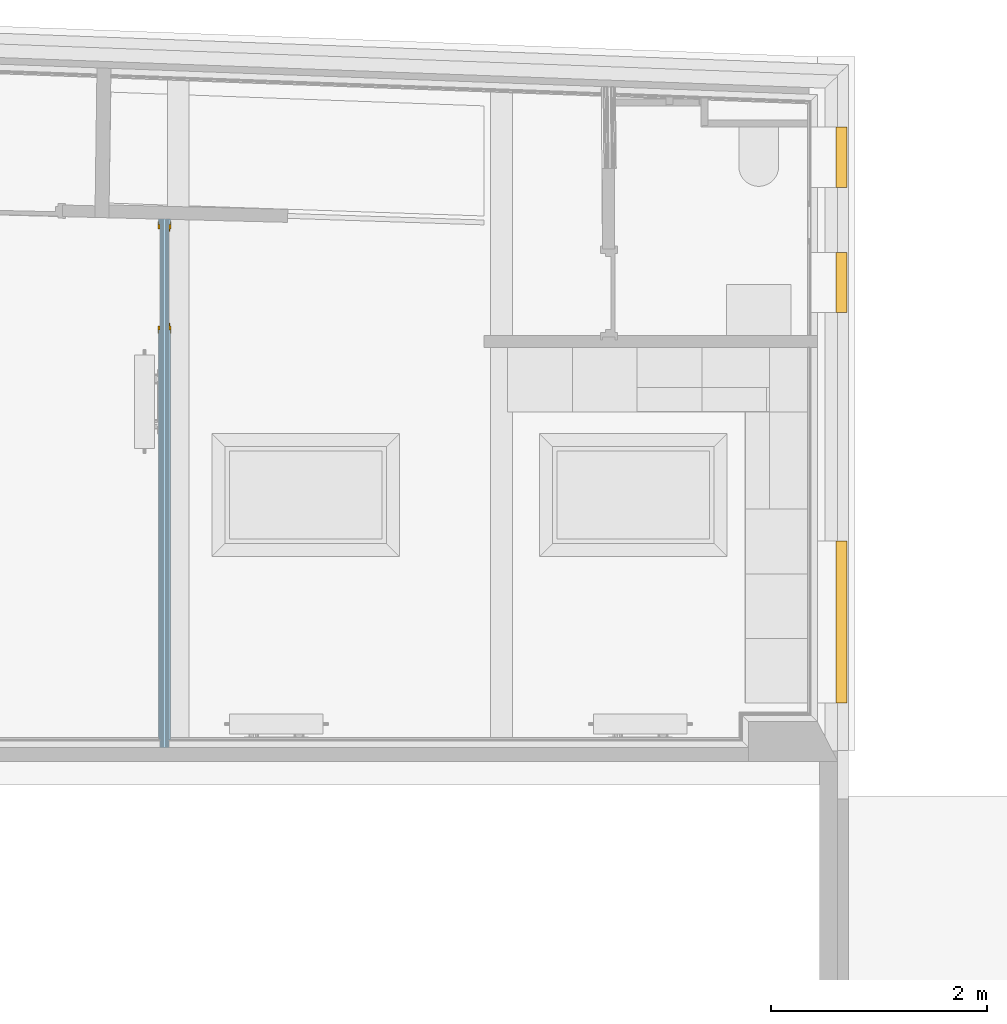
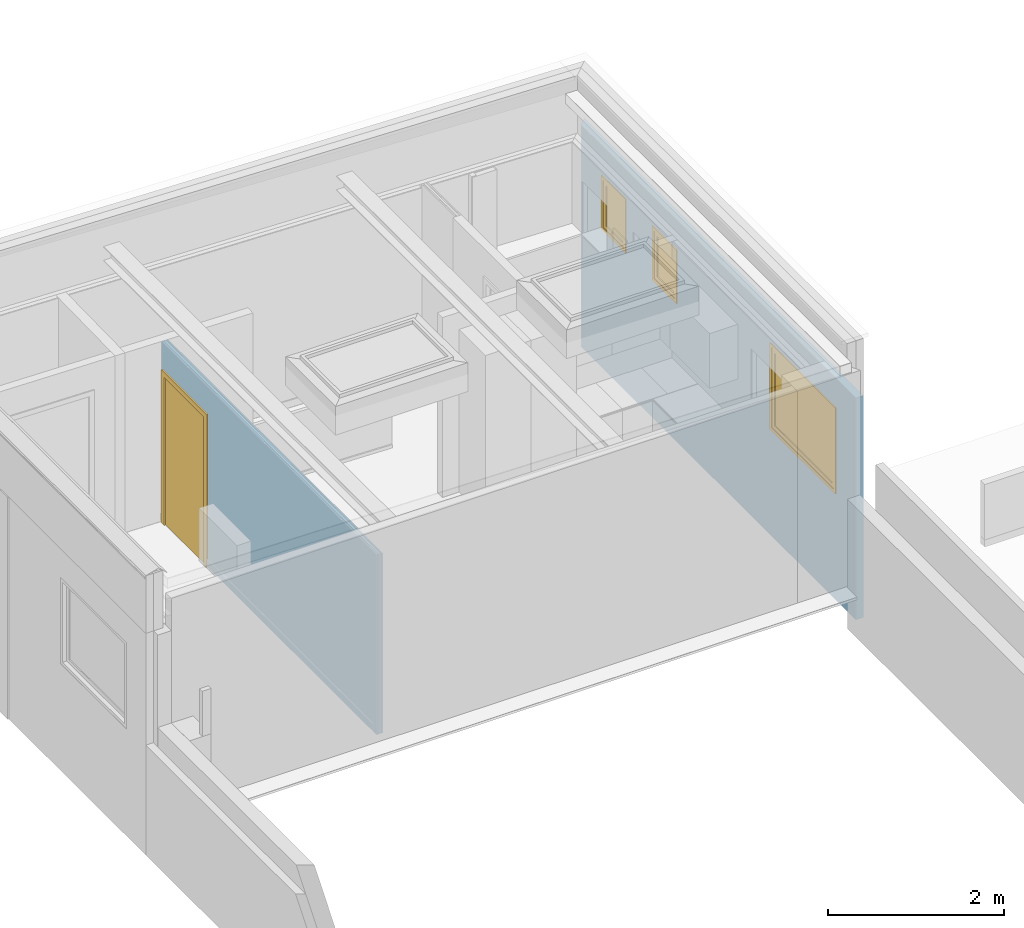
# One storey, part 11 of 23: 3 windows, 1 door, 4 openings, 1 element without a shape of its own, plus 8 elements that do not belong to this part.
"""IFC2X3 building model written with IfcOpenShell, lengths in metres."""

from ifc_helpers import new_model, entity, si_unit, converted_unit, derived_unit, money_unit, direction, frame, frame_2d, origin_with_axes, place, context, subcontext, project, spatial, polyline, rectangle, outline, extrude, faceted_brep, material, layer, layer_set, layer_usage, type_object, element, fill, aggregate, save


model = new_model("IFC2X3")

# Units and contexts
model_context = context("Model", 3, precision=1e-05, world=origin_with_axes(), true_north=direction((0.0, 1.0)))
body_context = subcontext(model_context, "Body", "Model", "MODEL_VIEW", scale=1.0)
ifc_project = project(units=[si_unit("LENGTHUNIT", "METRE"), si_unit("AREAUNIT", "SQUARE_METRE"), si_unit("VOLUMEUNIT", "CUBIC_METRE"), si_unit("ABSORBEDDOSEUNIT", "GRAY"), si_unit("AMOUNTOFSUBSTANCEUNIT", "MOLE"), si_unit("DOSEEQUIVALENTUNIT", "SIEVERT"), si_unit("ELECTRICCAPACITANCEUNIT", "FARAD"), si_unit("ELECTRICCHARGEUNIT", "COULOMB"), si_unit("ELECTRICCONDUCTANCEUNIT", "SIEMENS"), si_unit("ELECTRICCURRENTUNIT", "AMPERE"), si_unit("ELECTRICRESISTANCEUNIT", "OHM"), si_unit("ELECTRICVOLTAGEUNIT", "VOLT"), si_unit("ENERGYUNIT", "JOULE"), si_unit("FORCEUNIT", "NEWTON"), si_unit("FREQUENCYUNIT", "HERTZ"), si_unit("ILLUMINANCEUNIT", "LUX"), si_unit("INDUCTANCEUNIT", "HENRY"), si_unit("LUMINOUSFLUXUNIT", "LUMEN"), si_unit("LUMINOUSINTENSITYUNIT", "CANDELA"), si_unit("MAGNETICFLUXDENSITYUNIT", "TESLA"), si_unit("MAGNETICFLUXUNIT", "WEBER"), si_unit("MASSUNIT", "GRAM"), converted_unit("PLANEANGLEUNIT", "degree", entity("IfcReal", 0.0174532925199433), si_unit("PLANEANGLEUNIT", "RADIAN"), dimensions=[0, 0, 0, 0, 0, 0, 0]), si_unit("POWERUNIT", "WATT"), si_unit("PRESSUREUNIT", "PASCAL"), si_unit("RADIOACTIVITYUNIT", "BECQUEREL"), si_unit("SOLIDANGLEUNIT", "STERADIAN"), si_unit("THERMODYNAMICTEMPERATUREUNIT", "KELVIN"), si_unit("TIMEUNIT", "SECOND"), derived_unit("ACCELERATIONUNIT", [(si_unit("LENGTHUNIT", "METRE"), 1), (si_unit("TIMEUNIT", "SECOND"), -2)]), derived_unit("ANGULARVELOCITYUNIT", [(converted_unit("PLANEANGLEUNIT", "degree", entity("IfcReal", 0.0174532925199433), si_unit("PLANEANGLEUNIT", "RADIAN"), dimensions=[0, 0, 0, 0, 0, 0, 0]), 1), (si_unit("TIMEUNIT", "SECOND"), -1)]), derived_unit("CURVATUREUNIT", [(converted_unit("PLANEANGLEUNIT", "degree", entity("IfcReal", 0.0174532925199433), si_unit("PLANEANGLEUNIT", "RADIAN"), dimensions=[0, 0, 0, 0, 0, 0, 0]), 1), (si_unit("LENGTHUNIT", "METRE"), -1)]), derived_unit("DYNAMICVISCOSITYUNIT", [(si_unit("PRESSUREUNIT", "PASCAL"), 1), (si_unit("TIMEUNIT", "SECOND"), 1)]), derived_unit("HEATFLUXDENSITYUNIT", [(si_unit("POWERUNIT", "WATT"), 1), (si_unit("LENGTHUNIT", "METRE"), -2)]), derived_unit("HEATINGVALUEUNIT", [(si_unit("ENERGYUNIT", "JOULE"), 1), (si_unit("MASSUNIT", "GRAM"), -1)]), derived_unit("INTEGERCOUNTRATEUNIT", [(si_unit("TIMEUNIT", "SECOND"), -1)]), derived_unit("IONCONCENTRATIONUNIT", [(si_unit("MASSUNIT", "GRAM"), 1), (si_unit("VOLUMEUNIT", "CUBIC_METRE"), -1)]), derived_unit("ISOTHERMALMOISTURECAPACITYUNIT", [(si_unit("VOLUMEUNIT", "CUBIC_METRE"), 1), (si_unit("MASSUNIT", "GRAM"), -1)]), derived_unit("KINEMATICVISCOSITYUNIT", [(si_unit("AREAUNIT", "SQUARE_METRE"), 1), (si_unit("TIMEUNIT", "SECOND"), -1)]), derived_unit("LINEARFORCEUNIT", [(si_unit("FORCEUNIT", "NEWTON"), 1), (si_unit("LENGTHUNIT", "METRE"), -1)]), derived_unit("LINEARMOMENTUNIT", [(si_unit("FORCEUNIT", "NEWTON"), 1), (si_unit("LENGTHUNIT", "METRE"), -1)]), derived_unit("LINEARSTIFFNESSUNIT", [(si_unit("FORCEUNIT", "NEWTON"), 1), (si_unit("LENGTHUNIT", "METRE"), -1)]), derived_unit("LINEARVELOCITYUNIT", [(si_unit("LENGTHUNIT", "METRE"), 1), (si_unit("TIMEUNIT", "SECOND"), -1)]), derived_unit("LUMINOUSINTENSITYDISTRIBUTIONUNIT", [(si_unit("LUMINOUSINTENSITYUNIT", "CANDELA"), 1), (si_unit("LUMINOUSFLUXUNIT", "LUMEN"), -1)]), derived_unit("MASSDENSITYUNIT", [(si_unit("MASSUNIT", "GRAM"), 1), (si_unit("VOLUMEUNIT", "CUBIC_METRE"), -1)]), derived_unit("MASSFLOWRATEUNIT", [(si_unit("MASSUNIT", "GRAM"), 1), (si_unit("TIMEUNIT", "SECOND"), -1)]), derived_unit("MASSPERLENGTHUNIT", [(si_unit("MASSUNIT", "GRAM"), 1), (si_unit("LENGTHUNIT", "METRE"), -1)]), derived_unit("MODULUSOFELASTICITYUNIT", [(si_unit("FORCEUNIT", "NEWTON"), 1), (si_unit("AREAUNIT", "SQUARE_METRE"), -1)]), derived_unit("MODULUSOFLINEARSUBGRADEREACTIONUNIT", [(si_unit("FORCEUNIT", "NEWTON"), 1), (si_unit("LENGTHUNIT", "METRE"), -2)]), derived_unit("MODULUSOFROTATIONALSUBGRADEREACTIONUNIT", [(si_unit("FORCEUNIT", "NEWTON"), 1), (si_unit("LENGTHUNIT", "METRE"), 1)]), derived_unit("MODULUSOFSUBGRADEREACTIONUNIT", [(si_unit("FORCEUNIT", "NEWTON"), 1), (si_unit("VOLUMEUNIT", "CUBIC_METRE"), -1)]), derived_unit("MOISTUREDIFFUSIVITYUNIT", [(si_unit("VOLUMEUNIT", "CUBIC_METRE"), 1), (si_unit("TIMEUNIT", "SECOND"), -1)]), derived_unit("MOLECULARWEIGHTUNIT", [(si_unit("MASSUNIT", "GRAM"), 1), (si_unit("AMOUNTOFSUBSTANCEUNIT", "MOLE"), -1)]), derived_unit("PLANARFORCEUNIT", [(si_unit("FORCEUNIT", "NEWTON"), 1), (si_unit("LENGTHUNIT", "METRE"), -2)]), derived_unit("ROTATIONALFREQUENCYUNIT", [(si_unit("TIMEUNIT", "SECOND"), -1)]), derived_unit("ROTATIONALMASSUNIT", [(si_unit("MASSUNIT", "GRAM"), 1), (si_unit("LENGTHUNIT", "METRE"), 2)]), derived_unit("ROTATIONALSTIFFNESSUNIT", [(si_unit("FORCEUNIT", "NEWTON"), 1), (si_unit("LENGTHUNIT", "METRE"), 1), (converted_unit("PLANEANGLEUNIT", "degree", entity("IfcReal", 0.0174532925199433), si_unit("PLANEANGLEUNIT", "RADIAN"), dimensions=[0, 0, 0, 0, 0, 0, 0]), -1)]), derived_unit("SECTIONAREAINTEGRALUNIT", [(si_unit("LENGTHUNIT", "METRE"), 5)]), derived_unit("SECTIONMODULUSUNIT", [(si_unit("LENGTHUNIT", "METRE"), 3)]), derived_unit("SHEARMODULUSUNIT", [(si_unit("FORCEUNIT", "NEWTON"), 1), (si_unit("AREAUNIT", "SQUARE_METRE"), -1)]), derived_unit("SOUNDPOWERUNIT", [(si_unit("ENERGYUNIT", "JOULE"), 1), (si_unit("TIMEUNIT", "SECOND"), -1)]), derived_unit("SPECIFICHEATCAPACITYUNIT", [(si_unit("FORCEUNIT", "NEWTON"), 1), (si_unit("MASSUNIT", "GRAM"), -1), (si_unit("THERMODYNAMICTEMPERATUREUNIT", "KELVIN"), -1)]), derived_unit("TEMPERATUREGRADIENTUNIT", [(si_unit("THERMODYNAMICTEMPERATUREUNIT", "KELVIN"), 1), (si_unit("LENGTHUNIT", "METRE"), -1)]), derived_unit("THERMALADMITTANCEUNIT", [(si_unit("POWERUNIT", "WATT"), 1), (si_unit("AREAUNIT", "SQUARE_METRE"), -1), (si_unit("THERMODYNAMICTEMPERATUREUNIT", "KELVIN"), -1)]), derived_unit("THERMALCONDUCTANCEUNIT", [(si_unit("POWERUNIT", "WATT"), 1), (si_unit("LENGTHUNIT", "METRE"), -1), (si_unit("THERMODYNAMICTEMPERATUREUNIT", "KELVIN"), -1)]), derived_unit("THERMALEXPANSIONCOEFFICIENTUNIT", [(si_unit("THERMODYNAMICTEMPERATUREUNIT", "KELVIN"), -1)]), derived_unit("THERMALRESISTANCEUNIT", [(si_unit("AREAUNIT", "SQUARE_METRE"), 1), (si_unit("POWERUNIT", "WATT"), -1)]), derived_unit("THERMALTRANSMITTANCEUNIT", [(si_unit("POWERUNIT", "WATT"), 1), (si_unit("AREAUNIT", "SQUARE_METRE"), -1), (si_unit("THERMODYNAMICTEMPERATUREUNIT", "KELVIN"), -1)]), derived_unit("TORQUEUNIT", [(si_unit("FORCEUNIT", "NEWTON"), 1), (si_unit("LENGTHUNIT", "METRE"), 1)]), derived_unit("VAPORPERMEABILITYUNIT", [(si_unit("MASSUNIT", "GRAM"), 1), (si_unit("TIMEUNIT", "SECOND"), -1)]), derived_unit("VOLUMETRICFLOWRATEUNIT", [(si_unit("VOLUMEUNIT", "CUBIC_METRE"), 1), (si_unit("TIMEUNIT", "SECOND"), -1)]), derived_unit("WARPINGCONSTANTUNIT", [(si_unit("LENGTHUNIT", "METRE"), 6)]), derived_unit("WARPINGMOMENTUNIT", [(si_unit("FORCEUNIT", "NEWTON"), 1), (si_unit("LENGTHUNIT", "METRE"), 2)]), money_unit("GBP")], contexts=[model_context])

# Site, building, storey
site_placement = place(None, origin_with_axes())
site = spatial("IfcSite", under=ifc_project, at=site_placement, Name="Site", CompositionType="ELEMENT")
building_placement = place(site_placement, origin_with_axes())
building = spatial("IfcBuilding", under=site, at=building_placement, Name="Building01", CompositionType="ELEMENT")
storey_placement = place(building_placement, frame((0.0, 0.0, 2.6), z_axis=(0.0, 0.0, 1.0), x_axis=(1.0, 0.0, 0.0)))
storey = spatial("IfcBuildingStorey", under=building, at=storey_placement, Name="MF", CompositionType="ELEMENT", Elevation=2.6)

# Wall, openings
ifc_material_1 = material(Name="A_BSUK_WallsExternal_Brick")
ifc_layer = layer(ifc_material_1, 0.1, ventilated=False)
ifc_layer_set = layer_set([ifc_layer])
ifc_layer_usage = layer_usage(ifc_layer_set, "AXIS2", "POSITIVE", 0.0)
wall_type_1 = type_object("IfcWallType", Name="A-Walls-ExternalBrick", PredefinedType="NOTDEFINED")
wall_1_placement = place(storey_placement, frame((9.343038, 21.166066, 0.0), z_axis=(0.0, 0.0, 1.0), x_axis=(0.0, -1.0, 0.0)))
wall_1 = element("IfcWallStandardCase", 1, at=wall_1_placement, inside=storey, type_object=wall_type_1, material=ifc_layer_usage, Name="A-Walls-ExternalBrick", ObjectType="A-Walls-ExternalBrick", context=body_context, shape_type="SweptSolid", body=[
    extrude(outline(polyline([(6.265024, 0.1), (-0.096359, 0.1), (0.0, 0.0), (6.265024, 0.0), (6.265024, 0.1)])), origin_with_axes(), (0.0, 0.0, 1.0), 3.085),
])
opening_1_placement = place(wall_1_placement, frame((4.323276, 0.0, 1.485), z_axis=(0.0, 0.0, 1.0), x_axis=(1.0, 0.0, 0.0)))
opening_1 = element("IfcOpeningElement", 2, at=opening_1_placement, cuts=wall_1, Name="Opening", ObjectType="Opening", context=body_context, shape_type="SweptSolid", body=[
    extrude(rectangle(XDim=1.2, YDim=1.5, at=frame_2d((-0.75, 0.6), x_axis=(0.0, -1.0))), frame((0.0, 0.0, 0.0), z_axis=(0.0, 1.0, 0.0), x_axis=(-1.0, 0.0, 0.0)), (0.0, 0.0, 1.0), 0.1),
])
opening_2_placement = place(wall_1_placement, frame((1.643772, 0.0, 1.935), z_axis=(0.0, 0.0, 1.0), x_axis=(1.0, 0.0, 0.0)))
opening_2 = element("IfcOpeningElement", 3, at=opening_2_placement, cuts=wall_1, Name="Opening", ObjectType="Opening", context=body_context, shape_type="SweptSolid", body=[
    extrude(rectangle(XDim=0.75, YDim=0.56, at=frame_2d((-0.28, 0.375), x_axis=(0.0, -1.0))), frame((0.0, 0.0, 0.0), z_axis=(0.0, 1.0, 0.0), x_axis=(-1.0, 0.0, 0.0)), (0.0, 0.0, 1.0), 0.1),
])
opening_3_placement = place(wall_1_placement, frame((0.482163, 0.0, 1.935), z_axis=(0.0, 0.0, 1.0), x_axis=(1.0, 0.0, 0.0)))
opening_3 = element("IfcOpeningElement", 4, at=opening_3_placement, cuts=wall_1, Name="Opening", ObjectType="Opening", context=body_context, shape_type="SweptSolid", body=[
    extrude(rectangle(XDim=0.75, YDim=0.56, at=frame_2d((-0.28, 0.375), x_axis=(0.0, -1.0))), frame((0.0, 0.0, 0.0), z_axis=(0.0, 1.0, 0.0), x_axis=(-1.0, 0.0, 0.0)), (0.0, 0.0, 1.0), 0.1),
])

# Space
space_placement = place(storey_placement, frame((0.352897, 21.240404, 0.585), z_axis=(0.0, 0.0, 1.0), x_axis=(-1.921e-05, -1.0, 0.0)))
space = spatial("IfcSpace", under=storey, at=space_placement, Name="01", CompositionType="ELEMENT", InteriorOrExteriorSpace="NOTDEFINED")

# Window
ifc_material_2 = material(Name="A_BSUK_Windows")
window_style = type_object("IfcWindowStyle", Name="A-Awning", ConstructionType="NOTDEFINED", OperationType="USERDEFINED", ParameterTakesPrecedence=False, Sizeable=False)
window_1_placement = place(opening_1_placement, frame((1.5, -0.038773, 0.0), z_axis=(0.0, 0.0, 1.0), x_axis=(1.0, 0.0, 0.0)))
window_1 = element("IfcWindow", 5, at=window_1_placement, inside=space, type_object=window_style, material=ifc_material_2, Name="0.21", ObjectType="A-Awning", OverallHeight=1.2, OverallWidth=1.5, context=body_context, shape_type="Brep", body=[
    faceted_brep([(-1.458, 0.0254, 0.042), (-0.042, 0.0254, 0.042), (-0.042, 0.1254, 0.042), (-1.458, 0.1254, 0.042), (-1.458, 0.0254, 1.158), (-1.458, 0.1254, 1.158), (-0.042, 0.0254, 1.158), (-0.042, 0.1254, 1.158), (0.0, 0.0254, 0.0), (0.0, 0.0254, 1.2), (-1.5, 0.0254, 1.2), (-1.5, 0.0254, 0.0), (0.0, 0.1254, 1.2), (-1.5, 0.1254, 1.2), (-1.5, 0.1254, 0.0), (0.0, 0.1254, 0.0)], [[[0, 1, 2, 3]], [[4, 0, 3, 5]], [[6, 4, 5, 7]], [[8, 9, 10, 11], [4, 6, 1, 0]], [[1, 6, 7, 2]], [[12, 13, 10, 9]], [[14, 15, 8, 11]], [[13, 14, 11, 10]], [[13, 12, 15, 14], [2, 7, 5, 3]], [[15, 12, 9, 8]]]),
    faceted_brep([(-1.4072, 0.0354, 0.0928), (-0.0928, 0.0354, 0.0928), (-0.0928, 0.0704, 0.0928), (-1.4072, 0.0704, 0.0928), (-1.4072, 0.0354, 1.1072), (-1.4072, 0.0704, 1.1072), (-0.0928, 0.0354, 1.1072), (-0.0928, 0.0704, 1.1072), (-1.458, 0.0704, 1.158), (-0.042, 0.0704, 1.158), (-0.042, 0.0704, 0.042), (-1.458, 0.0704, 0.042), (-1.458, 0.0354, 1.158), (-0.042, 0.0354, 1.158), (-0.042, 0.0354, 0.042), (-1.458, 0.0354, 0.042)], [[[0, 1, 2, 3]], [[4, 0, 3, 5]], [[6, 4, 5, 7]], [[8, 9, 10, 11], [2, 7, 5, 3]], [[9, 8, 12, 13]], [[10, 9, 13, 14]], [[11, 10, 14, 15]], [[8, 11, 15, 12]], [[14, 13, 12, 15], [4, 6, 1, 0]], [[1, 6, 7, 2]]]),
    faceted_brep([(-0.0928, 0.049725, 0.0928), (-0.0928, 0.056075, 0.0928), (-0.0928, 0.056075, 1.1072), (-0.0928, 0.049725, 1.1072), (-1.4072, 0.049725, 1.1072), (-1.4072, 0.056075, 1.1072), (-1.4072, 0.056075, 0.0928), (-1.4072, 0.049725, 0.0928)], [[[0, 1, 2, 3]], [[4, 5, 6, 7]], [[3, 2, 5, 4]], [[3, 4, 7, 0]], [[7, 6, 1, 0]], [[1, 6, 5, 2]]]),
])

fill(opening_1, window_1)

window_2_placement = place(opening_2_placement, frame((0.56, -0.038773, 0.0), z_axis=(0.0, 0.0, 1.0), x_axis=(1.0, 0.0, 0.0)))
window_2 = element("IfcWindow", 6, at=window_2_placement, inside=space, type_object=window_style, material=ifc_material_2, Name="0.22", ObjectType="A-Awning", OverallHeight=0.750000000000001, OverallWidth=0.56, context=body_context, shape_type="Brep", body=[
    faceted_brep([(-0.518, 0.0254, 0.042), (-0.042, 0.0254, 0.042), (-0.042, 0.1254, 0.042), (-0.518, 0.1254, 0.042), (-0.518, 0.0254, 0.708), (-0.518, 0.1254, 0.708), (-0.042, 0.0254, 0.708), (-0.042, 0.1254, 0.708), (0.0, 0.0254, 0.0), (0.0, 0.0254, 0.75), (-0.56, 0.0254, 0.75), (-0.56, 0.0254, 0.0), (0.0, 0.1254, 0.75), (-0.56, 0.1254, 0.75), (-0.56, 0.1254, 0.0), (0.0, 0.1254, 0.0)], [[[0, 1, 2, 3]], [[4, 0, 3, 5]], [[6, 4, 5, 7]], [[8, 9, 10, 11], [4, 6, 1, 0]], [[1, 6, 7, 2]], [[12, 13, 10, 9]], [[14, 15, 8, 11]], [[13, 14, 11, 10]], [[13, 12, 15, 14], [2, 7, 5, 3]], [[15, 12, 9, 8]]]),
    faceted_brep([(-0.4672, 0.0354, 0.0928), (-0.0928, 0.0354, 0.0928), (-0.0928, 0.0704, 0.0928), (-0.4672, 0.0704, 0.0928), (-0.4672, 0.0354, 0.6572), (-0.4672, 0.0704, 0.6572), (-0.0928, 0.0354, 0.6572), (-0.0928, 0.0704, 0.6572), (-0.518, 0.0704, 0.708), (-0.042, 0.0704, 0.708), (-0.042, 0.0704, 0.042), (-0.518, 0.0704, 0.042), (-0.518, 0.0354, 0.708), (-0.042, 0.0354, 0.708), (-0.042, 0.0354, 0.042), (-0.518, 0.0354, 0.042)], [[[0, 1, 2, 3]], [[4, 0, 3, 5]], [[6, 4, 5, 7]], [[8, 9, 10, 11], [2, 7, 5, 3]], [[9, 8, 12, 13]], [[10, 9, 13, 14]], [[11, 10, 14, 15]], [[8, 11, 15, 12]], [[14, 13, 12, 15], [4, 6, 1, 0]], [[1, 6, 7, 2]]]),
    faceted_brep([(-0.0928, 0.049725, 0.0928), (-0.0928, 0.056075, 0.0928), (-0.0928, 0.056075, 0.6572), (-0.0928, 0.049725, 0.6572), (-0.4672, 0.049725, 0.6572), (-0.4672, 0.056075, 0.6572), (-0.4672, 0.056075, 0.0928), (-0.4672, 0.049725, 0.0928)], [[[0, 1, 2, 3]], [[4, 5, 6, 7]], [[3, 2, 5, 4]], [[3, 4, 7, 0]], [[7, 6, 1, 0]], [[1, 6, 5, 2]]]),
])

fill(opening_2, window_2)

window_3_placement = place(opening_3_placement, frame((0.56, -0.038773, 0.0), z_axis=(0.0, 0.0, 1.0), x_axis=(1.0, 0.0, 0.0)))
window_3 = element("IfcWindow", 7, at=window_3_placement, inside=space, type_object=window_style, material=ifc_material_2, Name="0.23", ObjectType="A-Awning", OverallHeight=0.750000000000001, OverallWidth=0.56, context=body_context, shape_type="Brep", body=[
    faceted_brep([(-0.518, 0.0254, 0.042), (-0.042, 0.0254, 0.042), (-0.042, 0.1254, 0.042), (-0.518, 0.1254, 0.042), (-0.518, 0.0254, 0.708), (-0.518, 0.1254, 0.708), (-0.042, 0.0254, 0.708), (-0.042, 0.1254, 0.708), (0.0, 0.0254, 0.0), (0.0, 0.0254, 0.75), (-0.56, 0.0254, 0.75), (-0.56, 0.0254, 0.0), (0.0, 0.1254, 0.75), (-0.56, 0.1254, 0.75), (-0.56, 0.1254, 0.0), (0.0, 0.1254, 0.0)], [[[0, 1, 2, 3]], [[4, 0, 3, 5]], [[6, 4, 5, 7]], [[8, 9, 10, 11], [4, 6, 1, 0]], [[1, 6, 7, 2]], [[12, 13, 10, 9]], [[14, 15, 8, 11]], [[13, 14, 11, 10]], [[13, 12, 15, 14], [2, 7, 5, 3]], [[15, 12, 9, 8]]]),
    faceted_brep([(-0.4672, 0.0354, 0.0928), (-0.0928, 0.0354, 0.0928), (-0.0928, 0.0704, 0.0928), (-0.4672, 0.0704, 0.0928), (-0.4672, 0.0354, 0.6572), (-0.4672, 0.0704, 0.6572), (-0.0928, 0.0354, 0.6572), (-0.0928, 0.0704, 0.6572), (-0.518, 0.0704, 0.708), (-0.042, 0.0704, 0.708), (-0.042, 0.0704, 0.042), (-0.518, 0.0704, 0.042), (-0.518, 0.0354, 0.708), (-0.042, 0.0354, 0.708), (-0.042, 0.0354, 0.042), (-0.518, 0.0354, 0.042)], [[[0, 1, 2, 3]], [[4, 0, 3, 5]], [[6, 4, 5, 7]], [[8, 9, 10, 11], [2, 7, 5, 3]], [[9, 8, 12, 13]], [[10, 9, 13, 14]], [[11, 10, 14, 15]], [[8, 11, 15, 12]], [[14, 13, 12, 15], [4, 6, 1, 0]], [[1, 6, 7, 2]]]),
    faceted_brep([(-0.0928, 0.049725, 0.0928), (-0.0928, 0.056075, 0.0928), (-0.0928, 0.056075, 0.6572), (-0.0928, 0.049725, 0.6572), (-0.4672, 0.049725, 0.6572), (-0.4672, 0.056075, 0.6572), (-0.4672, 0.056075, 0.0928), (-0.4672, 0.049725, 0.0928)], [[[0, 1, 2, 3]], [[4, 5, 6, 7]], [[3, 2, 5, 4]], [[3, 4, 7, 0]], [[7, 6, 1, 0]], [[1, 6, 5, 2]]]),
])

fill(opening_3, window_3)

# Door
ifc_material_3 = material(Name="A_BSUK_Doors")
door_style = type_object("IfcDoorStyle", Name="A-Doors-SingleFlush", ConstructionType="USERDEFINED", OperationType="SINGLE_SWING_RIGHT", ParameterTakesPrecedence=False, Sizeable=False)
wall_2_placement = place(storey_placement, frame((3.110414, 14.93, 0.585), z_axis=(0.0, 0.0, 1.0), x_axis=(0.0, 1.0, 0.0)))
opening_4_placement = place(wall_2_placement, frame((3.868347, -0.042, 0.0), z_axis=(0.0, 0.0, 1.0), x_axis=(1.0, 0.0, 0.0)))
door_placement = place(opening_4_placement, frame((0.042, 0.095, 0.0), z_axis=(0.0, 0.0, 1.0), x_axis=(1.0, 0.0, 0.0)))
door = element("IfcDoor", 8, at=door_placement, inside=space, type_object=door_style, material=ifc_material_3, Name="0.22", ObjectType="A-Doors-SingleFlush", OverallHeight=2.10000000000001, OverallWidth=0.984000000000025, context=body_context, shape_type="Brep", body=[
    faceted_brep([(0.9, -0.099, 0.0), (0.969, -0.099, 0.0), (0.969, -0.099, 2.127), (-0.069, -0.099, 2.127), (-0.069, -0.099, 0.0), (0.0, -0.099, 0.0), (0.0, -0.099, 2.058), (0.9, -0.099, 2.058), (-0.069, -0.08, 0.0), (-0.069, -0.08, 2.127), (0.969, -0.08, 2.127), (0.969, -0.08, 0.0), (0.9, 0.019, 0.0), (0.969, 0.019, 0.0), (0.969, 0.0, 0.0), (0.942, 0.0, 0.0), (0.942, -0.08, 0.0), (0.9, 0.019, 2.058), (0.0, 0.019, 2.058), (0.0, 0.019, 0.0), (-0.069, 0.019, 0.0), (-0.069, 0.019, 2.127), (0.969, 0.019, 2.127), (0.969, 0.0, 2.127), (0.942, -0.08, 2.1), (0.942, 0.0, 2.1), (-0.042, -0.08, 2.1), (-0.042, 0.0, 2.1), (-0.042, -0.08, 0.0), (-0.042, 0.0, 0.0), (-0.069, 0.0, 2.127), (-0.069, 0.0, 0.0)], [[[0, 1, 2, 3, 4, 5, 6, 7]], [[8, 4, 3, 9]], [[10, 2, 1, 11]], [[9, 3, 2, 10]], [[12, 13, 14, 15, 16, 11, 1, 0]], [[7, 17, 12, 0]], [[6, 18, 17, 7]], [[18, 19, 20, 21, 22, 13, 12, 17]], [[5, 19, 18, 6]], [[13, 22, 23, 14]], [[24, 16, 15, 25]], [[26, 24, 25, 27]], [[11, 16, 24, 26, 28, 8, 9, 10]], [[27, 29, 28, 26]], [[25, 15, 14, 23, 30, 31, 29, 27]], [[5, 4, 8, 28, 29, 31, 20, 19]], [[30, 21, 20, 31]], [[23, 22, 21, 30]]]),
    faceted_brep([(0.0, -0.09, 2.058), (0.0, -0.04, 2.058), (0.0, -0.04, 0.0), (0.0, -0.09, 0.0), (0.875, -0.09, 0.0), (0.9, -0.09, 0.0), (0.9, -0.09, 2.058), (0.025, -0.09, 0.0), (0.025, -0.09, 2.033), (0.875, -0.09, 2.033), (0.875, -0.04, 0.0), (0.9, -0.04, 0.0), (0.9, -0.04, 2.058), (0.025, -0.04, 2.033), (0.025, -0.04, 0.0), (0.875, -0.04, 2.033)], [[[0, 1, 2, 3]], [[4, 5, 6, 0, 3, 7, 8, 9]], [[10, 11, 5, 4]], [[6, 12, 1, 0]], [[5, 11, 12, 6]], [[13, 14, 2, 1, 12, 11, 10, 15]], [[7, 14, 13, 8]], [[7, 3, 2, 14]], [[9, 15, 10, 4]], [[8, 13, 15, 9]]]),
    faceted_brep([(0.9, -0.04, 0.0), (0.9, 0.0, 0.0), (0.9, 0.0, 2.058), (0.9, -0.04, 2.058), (0.0, -0.04, 2.058), (0.0, 0.0, 2.058), (0.0, 0.0, 0.0), (0.0, -0.04, 0.0)], [[[0, 1, 2, 3]], [[4, 5, 6, 7]], [[7, 6, 1, 0]], [[3, 4, 7, 0]], [[3, 2, 5, 4]], [[1, 6, 5, 2]]]),
])

# Wall, opening
wall_type_2 = type_object("IfcWallType", Name="SHE_A-Walls_Type05b_Partition_80mm", PredefinedType="NOTDEFINED")
wall_2 = element("IfcWall", 9, at=wall_2_placement, inside=storey, type_object=wall_type_2, Name="5B", ObjectType="SHE_A-Walls_Type05b_Partition_80mm")
opening_4 = element("IfcOpeningElement", 10, at=opening_4_placement, cuts=wall_2, Name="Opening", ObjectType="Opening", context=body_context, shape_type="SweptSolid", body=[
    extrude(rectangle(XDim=2.1, YDim=0.984, at=frame_2d((-0.492, 1.05), x_axis=(0.0, 1.0))), frame((0.0, 0.0, 0.0), z_axis=(0.0, 1.0, 0.0), x_axis=(-1.0, 0.0, 0.0)), (0.0, 0.0, 1.0), 0.11),
])

fill(opening_4, door)

# Building element part
ifc_material_4 = material(Name="A_BSUK_Walls_Timber")
placement = place(wall_2_placement, origin_with_axes())
building_element_part_1 = element("IfcBuildingElementPart", 11, at=placement, material=ifc_material_4, Name="1", context=body_context, shape_type="SweptSolid", body=[
    extrude(outline(polyline([(4.898341, -0.027), (0.072, -0.027), (0.072, -0.042), (4.897956, -0.042), (4.898341, -0.027)])), frame((0.0, 0.0, 0.015), z_axis=(0.0, 0.0, 1.0), x_axis=(1.0, 0.0, 0.0)), (0.0, 0.0, 1.0), 0.1),
])

ifc_material_5 = material(Name="A_BSUK_WallInternal_Finishes_Plasterboard")
building_element_part_2 = element("IfcBuildingElementPart", 12, at=placement, material=ifc_material_5, Name="2", context=body_context, shape_type="SweptSolid", body=[
    extrude(outline(polyline([(4.898725, -0.012), (0.0, -0.012), (0.0, -0.027), (4.898341, -0.027), (4.898725, -0.012)])), origin_with_axes(), (0.0, 0.0, 1.0), 2.5),
])

ifc_material_6 = material(Name="Air Cavity")
building_element_part_3 = element("IfcBuildingElementPart", 13, at=placement, material=ifc_material_6, Name="3", context=body_context, shape_type="SweptSolid", body=[
    extrude(outline(polyline([(4.899033, 0.0), (0.0, 0.0), (0.0, -0.012), (4.898725, -0.012), (4.899033, 0.0)])), origin_with_axes(), (0.0, 0.0, 1.0), 2.5),
])

ifc_material_7 = material(Name="A_BSUK_Insulation")
building_element_part_4 = element("IfcBuildingElementPart", 14, at=placement, material=ifc_material_7, Name="4", context=body_context, shape_type="SweptSolid", body=[
    extrude(outline(polyline([(4.899674, 0.025), (0.0, 0.025), (0.0, 0.0), (4.899033, 0.0), (4.899674, 0.025)])), origin_with_axes(), (0.0, 0.0, 1.0), 2.5),
])

building_element_part_5 = element("IfcBuildingElementPart", 15, at=placement, material=ifc_material_6, Name="5", context=body_context, shape_type="SweptSolid", body=[
    extrude(outline(polyline([(4.900007, 0.038), (0.0, 0.038), (0.0, 0.025), (4.899674, 0.025), (4.900007, 0.038)])), origin_with_axes(), (0.0, 0.0, 1.0), 2.5),
])

building_element_part_6 = element("IfcBuildingElementPart", 16, at=placement, material=ifc_material_5, Name="6", context=body_context, shape_type="SweptSolid", body=[
    extrude(outline(polyline([(4.900392, 0.053), (0.0, 0.053), (0.0, 0.038), (4.900007, 0.038), (4.900392, 0.053)])), origin_with_axes(), (0.0, 0.0, 1.0), 2.5),
])

building_element_part_7 = element("IfcBuildingElementPart", 17, at=placement, material=ifc_material_4, Name="7", context=body_context, shape_type="SweptSolid", body=[
    extrude(outline(polyline([(4.900776, 0.068), (0.072, 0.068), (0.072, 0.053), (4.900392, 0.053), (4.900776, 0.068)])), frame((0.0, 0.0, 0.015), z_axis=(0.0, 0.0, 1.0), x_axis=(1.0, 0.0, 0.0)), (0.0, 0.0, 1.0), 0.1),
])

aggregate(wall_2, [building_element_part_1, building_element_part_2, building_element_part_3, building_element_part_4, building_element_part_5, building_element_part_6, building_element_part_7])

save(model, "model.ifc")
